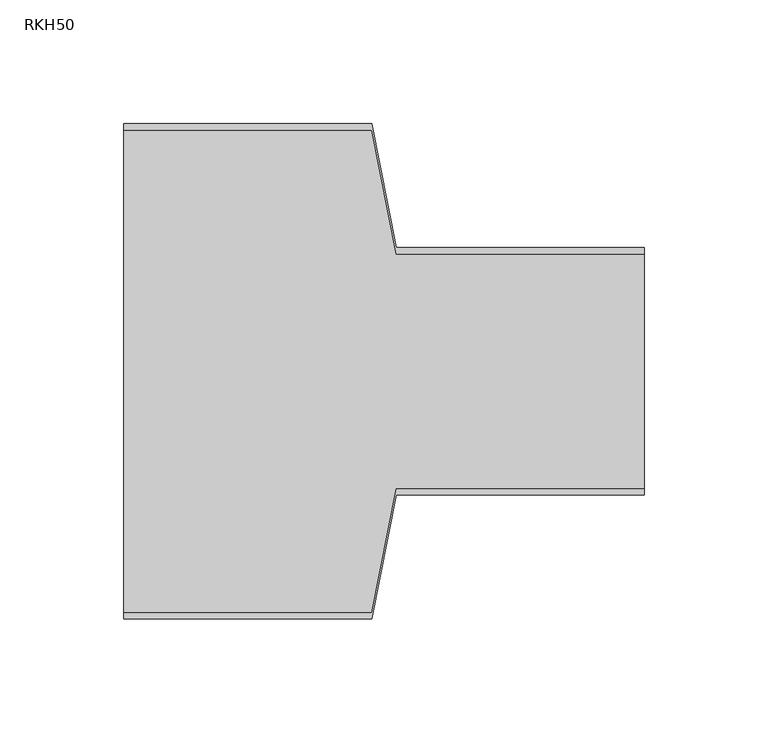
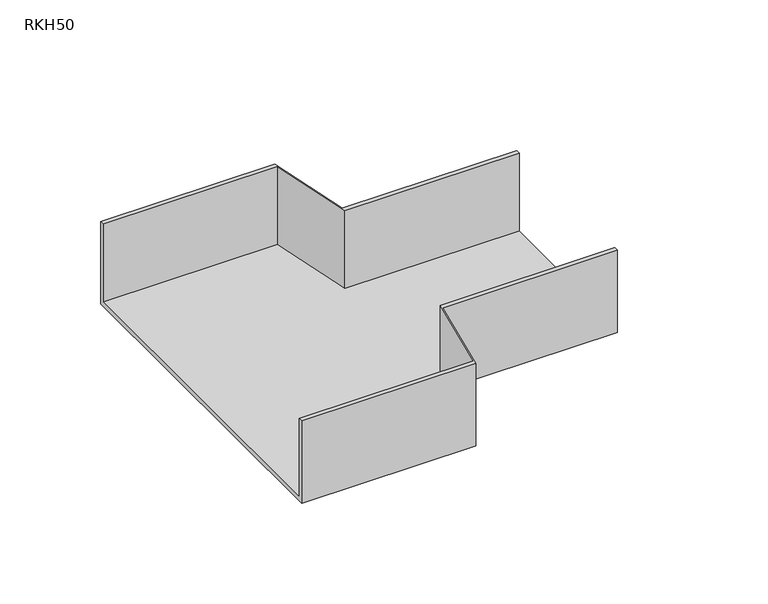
"""IFC4 building model written with IfcOpenShell, lengths in millimetres: cable carrier fitting geometry, BAKS_Reduction-angular_RK : RKH50."""

from ifc_helpers import new_model, si_unit, origin, place, context, project, spatial, faceted_brep, source, transform, mapped, element, save


def rkh50_caab6538(model_context):
    return source(origin(), model_context, "Body", "Brep", [
        faceted_brep([(0.0, -100.0, -25.0), (0.0, -100.0, 25.0), (0.0, -97.46, 25.0), (0.0, -97.46, -22.46), (0.0, 97.46, -22.46), (0.0, 97.46, 25.0), (0.0, 100.0, 25.0), (0.0, 100.0, -25.0), (210.0, -50.0, -25.0), (210.0, 50.0, -25.0), (210.0, 50.0, 25.0), (210.0, 47.46, 25.0), (210.0, 47.46, -22.46), (210.0, -47.46, -22.46), (210.0, -47.46, 25.0), (210.0, -50.0, 25.0), (100.0, -100.0, -25.0), (100.0, -100.0, 25.0), (110.0, -50.0, 25.0), (110.0, -47.46, 25.0), (100.0, -97.46, 25.0), (100.0, -97.46, -22.46), (110.0, -47.46, -22.46), (110.0, 47.46, -22.46), (100.0, 97.46, -22.46), (100.0, 97.46, 25.0), (110.0, 47.46, 25.0), (110.0, 50.0, 25.0), (100.0, 100.0, 25.0), (100.0, 100.0, -25.0), (110.0, 50.0, -25.0), (110.0, -50.0, -25.0)], [[[0, 1, 2, 3, 4, 5, 6, 7]], [[8, 9, 10, 11, 12, 13, 14, 15]], [[1, 0, 16, 17]], [[2, 1, 17, 18, 15, 14, 19, 20]], [[3, 2, 20, 21]], [[4, 3, 21, 22, 13, 12, 23, 24]], [[5, 4, 24, 25]], [[6, 5, 25, 26, 11, 10, 27, 28]], [[7, 6, 28, 29]], [[0, 7, 29, 30, 9, 8, 31, 16]], [[8, 15, 18, 31]], [[14, 13, 22, 19]], [[12, 11, 26, 23]], [[10, 9, 30, 27]], [[30, 29, 28, 27]], [[26, 25, 24, 23]], [[22, 21, 20, 19]], [[16, 31, 18, 17]]]),
    ])


if __name__ == "__main__":
    model = new_model("IFC4")
    model_context = context("Model", 3, world=origin())
    ifc_project = project(units=[si_unit("LENGTHUNIT", "METRE", prefix="MILLI")], contexts=[model_context])
    site = spatial("IfcSite", under=ifc_project)
    building = spatial("IfcBuilding", under=site)
    placement = place(None, origin())
    rkh50_shape = rkh50_caab6538(model_context)
    element("IfcCableCarrierFitting", 1, ObjectType="BAKS_Reduction-angular_RK : RKH50", at=placement, inside=building, context=model_context, shape_type="MappedRepresentation", body=[
        mapped(rkh50_shape, transform((0.0, 0.0, 0.0), x_axis=(1.0, 0.0, 0.0), y_axis=(0.0, 1.0, 0.0), z_axis=(0.0, 0.0, 1.0))),
    ])
    save(model, "model.ifc")
